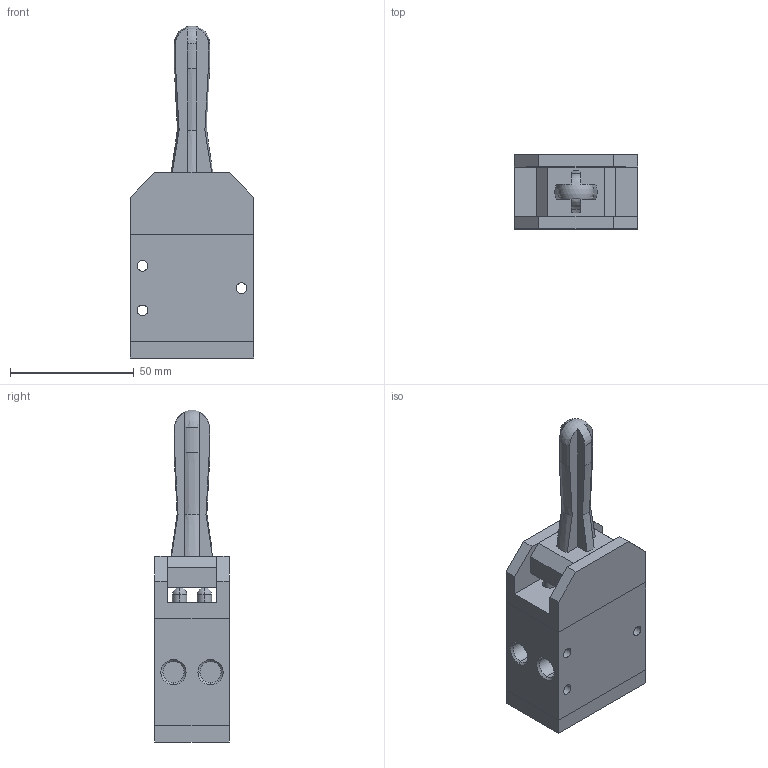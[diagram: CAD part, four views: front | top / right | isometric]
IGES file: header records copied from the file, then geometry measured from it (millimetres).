
Global section: file name: No Iges File Name specified; native system: AutoDesk Inventor R11.0; preprocessor: AutoDesk Inventor Iges Exporter R11.0; author: No Author specified; organization: No Organization specified; date: 20061219.114422; units: millimetre
Bounding box: 50 x 30 x 134.2 mm (x, y, z)
Volume: 102968.8 mm3; surface area: 23636.6 mm2
Topology: 2 solids, 2 shells, 103 faces, 256 edges, 162 vertices
Faces by surface type: plane 45, bspline 25, revolution 12, cylinder 8, cone 8, sphere 5
